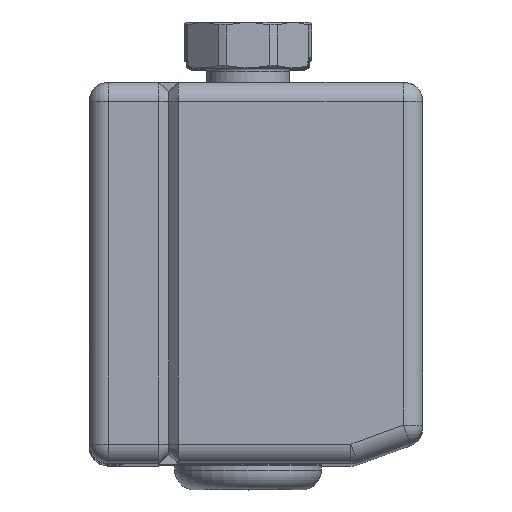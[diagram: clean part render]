
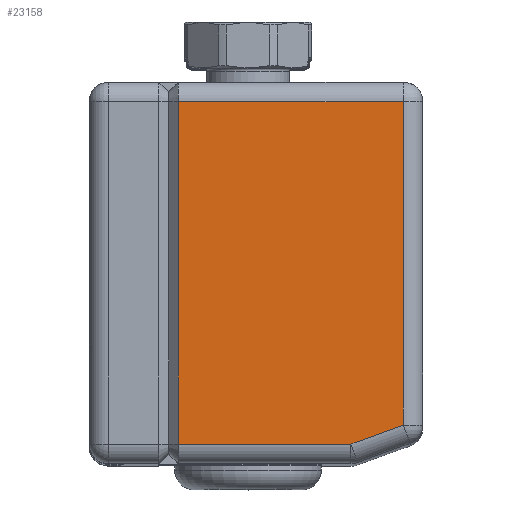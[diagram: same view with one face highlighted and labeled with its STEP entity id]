
A CAD part, top view. The second image highlights one B-rep face of the part: STEP entity #23158.
In plain terms, the highlighted planar face has unit normal (0, 0, 1) as drawn and (-1, 0, 0) by its records, which use the part's own axes.
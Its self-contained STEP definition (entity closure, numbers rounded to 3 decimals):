
#22994=CARTESIAN_POINT('',(-300.0,30.,148.0));
#22995=VERTEX_POINT('',#22994);
#23019=CARTESIAN_POINT('',(-300.0,30.,8.0));
#23020=VERTEX_POINT('',#23019);
#23027=CARTESIAN_POINT('',(-300.0,30.0,8.));
#23028=DIRECTION('',(0.0,0.0,1.0));
#23029=VECTOR('',#23028,140.0);
#23030=LINE('',#23027,#23029);
#23031=EDGE_CURVE('',#23020,#22995,#23030,.T.);
#23108=CARTESIAN_POINT('',(-300.0,-62.,148.0));
#23109=VERTEX_POINT('',#23108);
#23110=CARTESIAN_POINT('',(-300.0,30.,148.0));
#23111=DIRECTION('',(0.0,-1.0,0.0));
#23112=VECTOR('',#23111,92.);
#23113=LINE('',#23110,#23112);
#23114=EDGE_CURVE('',#22995,#23109,#23113,.T.);
#23127=CARTESIAN_POINT('',(-300.0,-33.862,79.329));
#23128=DIRECTION('',(1.0,0.0,0.0));
#23129=DIRECTION('',(0.0,0.0,-1.0));
#23130=AXIS2_PLACEMENT_3D('',#23127,#23128,#23129);
#23131=PLANE('',#23130);
#23132=ORIENTED_EDGE('',*,*,#23031,.F.);
#23133=CARTESIAN_POINT('',(-300.0,-40.589,8.));
#23134=VERTEX_POINT('',#23133);
#23135=CARTESIAN_POINT('',(-300.0,-40.589,8.));
#23136=DIRECTION('',(0.0,1.0,0.0));
#23137=VECTOR('',#23136,70.589);
#23138=LINE('',#23135,#23137);
#23139=EDGE_CURVE('',#23134,#23020,#23138,.T.);
#23140=ORIENTED_EDGE('',*,*,#23139,.F.);
#23141=CARTESIAN_POINT('',(-300.0,-62.,15.793));
#23142=VERTEX_POINT('',#23141);
#23143=CARTESIAN_POINT('',(-300.0,-62.,15.793));
#23144=DIRECTION('',(0.0,0.94,-0.342));
#23145=VECTOR('',#23144,22.785);
#23146=LINE('',#23143,#23145);
#23147=EDGE_CURVE('',#23142,#23134,#23146,.T.);
#23148=ORIENTED_EDGE('',*,*,#23147,.F.);
#23149=CARTESIAN_POINT('',(-300.0,-62.,148.0));
#23150=DIRECTION('',(0.0,0.0,-1.0));
#23151=VECTOR('',#23150,132.207);
#23152=LINE('',#23149,#23151);
#23153=EDGE_CURVE('',#23109,#23142,#23152,.T.);
#23154=ORIENTED_EDGE('',*,*,#23153,.F.);
#23155=ORIENTED_EDGE('',*,*,#23114,.F.);
#23156=EDGE_LOOP('',(#23132,#23140,#23148,#23154,#23155));
#23157=FACE_OUTER_BOUND('',#23156,.T.);
#23158=ADVANCED_FACE('',(#23157),#23131,.F.);
